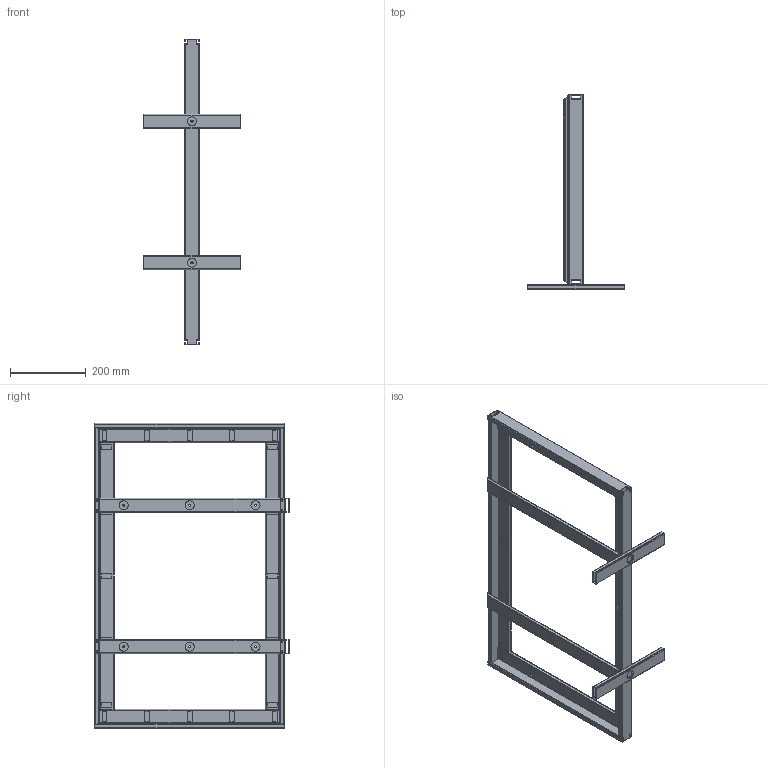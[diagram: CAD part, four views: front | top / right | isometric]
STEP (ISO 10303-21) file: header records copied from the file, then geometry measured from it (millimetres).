
FILE_DESCRIPTION(('FreeCAD Model'),'2;1');
FILE_NAME('assembly.STEP','2017-12-17T21:20:02',('FreeCAD'),('FreeCAD'), 'Open CASCADE STEP processor 7.1','FreeCAD','Unknown');
FILE_SCHEMA(('AUTOMOTIVE_DESIGN { 1 0 10303 214 1 1 1 1 }'));
Length unit declared in the file: millimetre
Products named in the file (13): Open CASCADE STEP translator 7.1 12; Open CASCADE STEP translator 7.1 12.1; Open CASCADE STEP translator 7.1 12.2; Open CASCADE STEP translator 7.1 12.3; Open CASCADE STEP translator 7.1 12.4; Open CASCADE STEP translator 7.1 12.5; Open CASCADE STEP translator 7.1 12.6; Open CASCADE STEP translator 7.1 12.7; Open CASCADE STEP translator 7.1 12.8; Open CASCADE STEP translator 7.1 12.9; Open CASCADE STEP translator 7.1 12.10; Open CASCADE STEP translator 7.1 12.11; Open CASCADE STEP translator 7.1 12.12
Assembly tree (12 placements, depth 2):
  Open CASCADE STEP translator 7.1 12
    Open CASCADE STEP translator 7.1 12.1
    Open CASCADE STEP translator 7.1 12.2
    Open CASCADE STEP translator 7.1 12.3
    Open CASCADE STEP translator 7.1 12.4
    Open CASCADE STEP translator 7.1 12.5
    Open CASCADE STEP translator 7.1 12.6
    Open CASCADE STEP translator 7.1 12.7
    Open CASCADE STEP translator 7.1 12.8
    Open CASCADE STEP translator 7.1 12.9
    Open CASCADE STEP translator 7.1 12.10
    Open CASCADE STEP translator 7.1 12.11
    Open CASCADE STEP translator 7.1 12.12
Bounding box: 254 x 512.7 x 804.6 mm (x, y, z)
Volume: 949154.9 mm3; surface area: 1159338.8 mm2
Topology: 12 solids, 12 shells, 444 faces, 1284 edges, 856 vertices
Faces by surface type: plane 274, cylinder 170
Full cylindrical faces by diameter (mm): 3.797 x50, 4.763 x8, 5.105 x6, 6.528 x2, 23.812 x8
Entity records: 31840 total; most frequent: CARTESIAN_POINT 6769, DIRECTION 4310, ORIENTED_EDGE 2568, PCURVE 2568, DEFINITIONAL_REPRESENTATION 2568, LINE 2480, VECTOR 2480, EDGE_CURVE 1284
